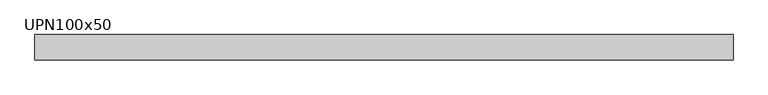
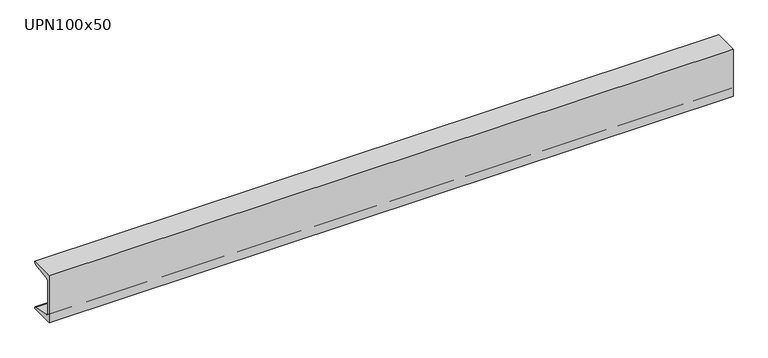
"""IFC4 building model written with IfcOpenShell, lengths in millimetres: beam geometry, M_MC Shapes : UPN100x50."""

from ifc_helpers import new_model, si_unit, point, frame, frame_2d, origin, place, context, project, spatial, polyline, circle_curve, trimmed, segment, composite_curve, outline, extrude, source, transform, mapped, element, save


def upn100x50_71922e7b(model_context):
    return source(origin(), model_context, "Body", "SweptSolid", [
        extrude(outline(composite_curve([segment(polyline([(-10.9, 50.0), (39.1, 50.0), (39.1, 49.0253247)]), True, "CONTINUOUS"), segment(trimmed(circle_curve(frame_2d((35.15, 49.0253247)), 3.95), [point((39.1, 49.0253247))], [point((35.7993773, 45.1290689))], False, "CARTESIAN"), True, "CONTINUOUS"), segment(polyline([(35.7993773, 45.1290689), (0.2512455, 39.2043685)]), True, "CONTINUOUS"), segment(trimmed(circle_curve(frame_2d((1.55, 31.4118569)), 7.9), [point((0.2512455, 39.2043685))], [point((-6.35, 31.4118569))], True, "CARTESIAN"), True, "CONTINUOUS"), segment(polyline([(-6.35, 31.4118569), (-6.35, -31.4118569)]), True, "CONTINUOUS"), segment(trimmed(circle_curve(frame_2d((1.55, -31.4118569)), 7.9), [point((-6.35, -31.4118569))], [point((0.2512455, -39.2043685))], True, "CARTESIAN"), True, "CONTINUOUS"), segment(polyline([(0.2512455, -39.2043685), (35.7993773, -45.1290689)]), True, "CONTINUOUS"), segment(trimmed(circle_curve(frame_2d((35.15, -49.0253247)), 3.95), [point((35.7993773, -45.1290689))], [point((39.1, -49.0253247))], False, "CARTESIAN"), True, "CONTINUOUS"), segment(polyline([(39.1, -49.0253247), (39.1, -50.0), (-10.9, -50.0), (-10.9, 50.0)]), True, "CONTINUOUS")], self_intersect=False)), frame((-790.0, 0.0, 0.0), z_axis=(1.0, 0.0, 0.0), x_axis=(0.0, 1.0, 0.0)), (0.0, 0.0, 1.0), 1374.7),
    ])


if __name__ == "__main__":
    model = new_model("IFC4")
    model_context = context("Model", 3, world=origin())
    ifc_project = project(units=[si_unit("LENGTHUNIT", "METRE", prefix="MILLI")], contexts=[model_context])
    site = spatial("IfcSite", under=ifc_project)
    building = spatial("IfcBuilding", under=site)
    placement = place(None, origin())
    upn100x50_shape = upn100x50_71922e7b(model_context)
    element("IfcBeam", 1, ObjectType="M_MC Shapes : UPN100x50", at=placement, inside=building, context=model_context, shape_type="MappedRepresentation", body=[
        mapped(upn100x50_shape, transform((0.0, 0.0, 0.0), x_axis=(1.0, 0.0, 0.0), y_axis=(0.0, 1.0, 0.0), z_axis=(0.0, 0.0, 1.0))),
    ])
    save(model, "model.ifc")
